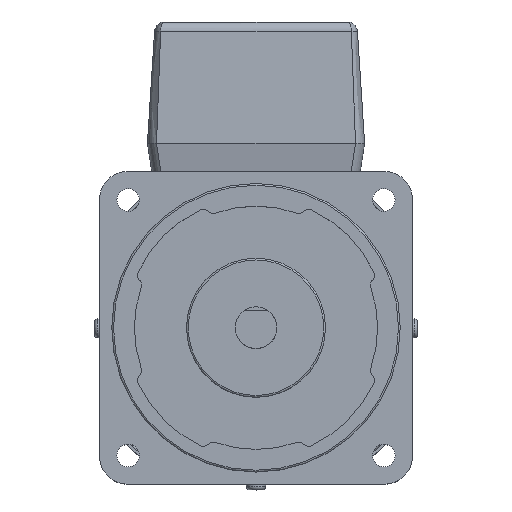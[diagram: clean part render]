
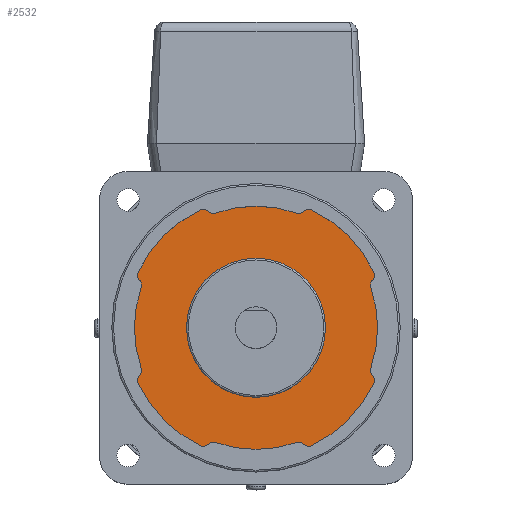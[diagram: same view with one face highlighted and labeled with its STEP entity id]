
A CAD part, top view. The second image highlights one B-rep face of the part: STEP entity #2532.
In plain terms, the highlighted planar face has unit normal (0, 0, 1).
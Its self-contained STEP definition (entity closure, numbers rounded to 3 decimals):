
#695=CARTESIAN_POINT('',(20.0,0.,116.0));
#696=VERTEX_POINT('',#695);
#697=CARTESIAN_POINT('',(0.,0.,116.0));
#698=DIRECTION('',(0.0,0.0,-1.0));
#699=DIRECTION('',(-1.0,0.0,0.0));
#700=AXIS2_PLACEMENT_3D('',#697,#698,#699);
#701=CIRCLE('',#700,20.0);
#702=EDGE_CURVE('',#696,#696,#701,.T.);
#725=CARTESIAN_POINT('',(-13.722,-33.501,116.0));
#726=VERTEX_POINT('',#725);
#742=CARTESIAN_POINT('',(-11.626,-33.013,116.0));
#743=VERTEX_POINT('',#742);
#750=CARTESIAN_POINT('',(-12.291,-34.899,116.0));
#751=DIRECTION('',(0.0,0.0,-1.0));
#752=DIRECTION('',(-0.408,0.913,0.0));
#753=AXIS2_PLACEMENT_3D('',#750,#751,#752);
#754=CIRCLE('',#753,2.0);
#755=EDGE_CURVE('',#743,#726,#754,.F.);
#775=CARTESIAN_POINT('',(11.626,-33.013,116.0));
#776=VERTEX_POINT('',#775);
#783=CARTESIAN_POINT('',(0.,0.,116.));
#784=DIRECTION('',(0.,0.,1.0));
#785=DIRECTION('',(-0.383,-0.924,0.));
#786=AXIS2_PLACEMENT_3D('',#783,#784,#785);
#787=CIRCLE('',#786,35.0);
#788=EDGE_CURVE('',#743,#776,#787,.T.);
#798=CARTESIAN_POINT('',(13.722,-33.501,116.0));
#799=VERTEX_POINT('',#798);
#808=CARTESIAN_POINT('',(12.291,-34.899,116.0));
#809=DIRECTION('',(0.0,0.0,-1.0));
#810=DIRECTION('',(0.408,0.913,0.0));
#811=AXIS2_PLACEMENT_3D('',#808,#809,#810);
#812=CIRCLE('',#811,2.0);
#813=EDGE_CURVE('',#799,#776,#812,.F.);
#840=CARTESIAN_POINT('',(16.006,-33.913,116.0));
#841=VERTEX_POINT('',#840);
#848=CARTESIAN_POINT('',(15.152,-32.104,116.0));
#849=DIRECTION('',(0.0,0.0,1.0));
#850=DIRECTION('',(0.715,0.699,0.0));
#851=AXIS2_PLACEMENT_3D('',#848,#849,#850);
#852=CIRCLE('',#851,2.);
#853=EDGE_CURVE('',#799,#841,#852,.T.);
#864=CARTESIAN_POINT('',(33.913,-16.006,116.0));
#865=VERTEX_POINT('',#864);
#874=CARTESIAN_POINT('',(0.,0.,116.));
#875=DIRECTION('',(0.,0.,1.0));
#876=DIRECTION('',(0.383,-0.924,0.));
#877=AXIS2_PLACEMENT_3D('',#874,#875,#876);
#878=CIRCLE('',#877,37.5);
#879=EDGE_CURVE('',#841,#865,#878,.T.);
#906=CARTESIAN_POINT('',(33.501,-13.722,116.0));
#907=VERTEX_POINT('',#906);
#914=CARTESIAN_POINT('',(32.104,-15.152,116.0));
#915=DIRECTION('',(0.0,0.0,1.0));
#916=DIRECTION('',(-0.904,0.427,0.0));
#917=AXIS2_PLACEMENT_3D('',#914,#915,#916);
#918=CIRCLE('',#917,2.);
#919=EDGE_CURVE('',#865,#907,#918,.T.);
#940=CARTESIAN_POINT('',(33.013,-11.626,116.0));
#941=VERTEX_POINT('',#940);
#948=CARTESIAN_POINT('',(34.899,-12.291,116.0));
#949=DIRECTION('',(0.0,0.0,-1.0));
#950=DIRECTION('',(-0.913,-0.408,0.0));
#951=AXIS2_PLACEMENT_3D('',#948,#949,#950);
#952=CIRCLE('',#951,2.0);
#953=EDGE_CURVE('',#941,#907,#952,.F.);
#963=CARTESIAN_POINT('',(33.013,11.626,116.0));
#964=VERTEX_POINT('',#963);
#973=CARTESIAN_POINT('',(0.,0.,116.));
#974=DIRECTION('',(0.,0.,1.0));
#975=DIRECTION('',(0.924,-0.383,0.));
#976=AXIS2_PLACEMENT_3D('',#973,#974,#975);
#977=CIRCLE('',#976,35.);
#978=EDGE_CURVE('',#941,#964,#977,.T.);
#996=CARTESIAN_POINT('',(33.501,13.722,116.0));
#997=VERTEX_POINT('',#996);
#1006=CARTESIAN_POINT('',(34.899,12.291,116.0));
#1007=DIRECTION('',(0.0,0.0,-1.0));
#1008=DIRECTION('',(-0.913,0.408,0.0));
#1009=AXIS2_PLACEMENT_3D('',#1006,#1007,#1008);
#1010=CIRCLE('',#1009,2.0);
#1011=EDGE_CURVE('',#997,#964,#1010,.F.);
#1038=CARTESIAN_POINT('',(33.913,16.006,116.0));
#1039=VERTEX_POINT('',#1038);
#1046=CARTESIAN_POINT('',(32.104,15.152,116.0));
#1047=DIRECTION('',(0.0,0.0,1.0));
#1048=DIRECTION('',(-0.699,0.715,0.0));
#1049=AXIS2_PLACEMENT_3D('',#1046,#1047,#1048);
#1050=CIRCLE('',#1049,2.);
#1051=EDGE_CURVE('',#997,#1039,#1050,.T.);
#1062=CARTESIAN_POINT('',(16.006,33.913,116.0));
#1063=VERTEX_POINT('',#1062);
#1072=CARTESIAN_POINT('',(0.,0.,116.));
#1073=DIRECTION('',(0.,0.,1.0));
#1074=DIRECTION('',(0.924,0.383,0.));
#1075=AXIS2_PLACEMENT_3D('',#1072,#1073,#1074);
#1076=CIRCLE('',#1075,37.5);
#1077=EDGE_CURVE('',#1039,#1063,#1076,.T.);
#1104=CARTESIAN_POINT('',(13.722,33.501,116.0));
#1105=VERTEX_POINT('',#1104);
#1112=CARTESIAN_POINT('',(15.152,32.104,116.0));
#1113=DIRECTION('',(0.0,0.0,1.0));
#1114=DIRECTION('',(-0.427,-0.904,0.0));
#1115=AXIS2_PLACEMENT_3D('',#1112,#1113,#1114);
#1116=CIRCLE('',#1115,2.);
#1117=EDGE_CURVE('',#1063,#1105,#1116,.T.);
#1138=CARTESIAN_POINT('',(11.626,33.013,116.0));
#1139=VERTEX_POINT('',#1138);
#1146=CARTESIAN_POINT('',(12.291,34.899,116.0));
#1147=DIRECTION('',(0.0,0.0,-1.0));
#1148=DIRECTION('',(0.408,-0.913,0.0));
#1149=AXIS2_PLACEMENT_3D('',#1146,#1147,#1148);
#1150=CIRCLE('',#1149,2.0);
#1151=EDGE_CURVE('',#1139,#1105,#1150,.F.);
#1161=CARTESIAN_POINT('',(-11.626,33.013,116.0));
#1162=VERTEX_POINT('',#1161);
#1171=CARTESIAN_POINT('',(0.,0.,116.));
#1172=DIRECTION('',(0.,0.,1.0));
#1173=DIRECTION('',(0.383,0.924,0.));
#1174=AXIS2_PLACEMENT_3D('',#1171,#1172,#1173);
#1175=CIRCLE('',#1174,35.0);
#1176=EDGE_CURVE('',#1139,#1162,#1175,.T.);
#1194=CARTESIAN_POINT('',(-13.722,33.501,116.0));
#1195=VERTEX_POINT('',#1194);
#1204=CARTESIAN_POINT('',(-12.291,34.899,116.0));
#1205=DIRECTION('',(0.0,0.0,-1.0));
#1206=DIRECTION('',(-0.408,-0.913,0.0));
#1207=AXIS2_PLACEMENT_3D('',#1204,#1205,#1206);
#1208=CIRCLE('',#1207,2.0);
#1209=EDGE_CURVE('',#1195,#1162,#1208,.F.);
#1236=CARTESIAN_POINT('',(-16.006,33.913,116.0));
#1237=VERTEX_POINT('',#1236);
#1244=CARTESIAN_POINT('',(-15.152,32.104,116.0));
#1245=DIRECTION('',(0.0,0.0,1.0));
#1246=DIRECTION('',(-0.715,-0.699,0.0));
#1247=AXIS2_PLACEMENT_3D('',#1244,#1245,#1246);
#1248=CIRCLE('',#1247,2.);
#1249=EDGE_CURVE('',#1195,#1237,#1248,.T.);
#1270=CARTESIAN_POINT('',(-33.913,16.006,116.0));
#1271=VERTEX_POINT('',#1270);
#1278=CARTESIAN_POINT('',(0.,0.,116.));
#1279=DIRECTION('',(0.,0.,1.0));
#1280=DIRECTION('',(-0.383,0.924,0.));
#1281=AXIS2_PLACEMENT_3D('',#1278,#1279,#1280);
#1282=CIRCLE('',#1281,37.5);
#1283=EDGE_CURVE('',#1237,#1271,#1282,.T.);
#1302=CARTESIAN_POINT('',(-33.501,13.722,116.0));
#1303=VERTEX_POINT('',#1302);
#1310=CARTESIAN_POINT('',(-32.104,15.152,116.0));
#1311=DIRECTION('',(0.0,0.0,1.0));
#1312=DIRECTION('',(0.904,-0.427,0.0));
#1313=AXIS2_PLACEMENT_3D('',#1310,#1311,#1312);
#1314=CIRCLE('',#1313,2.);
#1315=EDGE_CURVE('',#1271,#1303,#1314,.T.);
#1336=CARTESIAN_POINT('',(-33.013,11.626,116.0));
#1337=VERTEX_POINT('',#1336);
#1344=CARTESIAN_POINT('',(-34.899,12.291,116.0));
#1345=DIRECTION('',(0.0,0.0,-1.0));
#1346=DIRECTION('',(0.913,0.408,0.0));
#1347=AXIS2_PLACEMENT_3D('',#1344,#1345,#1346);
#1348=CIRCLE('',#1347,2.0);
#1349=EDGE_CURVE('',#1337,#1303,#1348,.F.);
#1359=CARTESIAN_POINT('',(-33.013,-11.626,116.0));
#1360=VERTEX_POINT('',#1359);
#1369=CARTESIAN_POINT('',(0.,0.,116.));
#1370=DIRECTION('',(0.,0.,1.0));
#1371=DIRECTION('',(-0.924,0.383,0.));
#1372=AXIS2_PLACEMENT_3D('',#1369,#1370,#1371);
#1373=CIRCLE('',#1372,35.0);
#1374=EDGE_CURVE('',#1337,#1360,#1373,.T.);
#1392=CARTESIAN_POINT('',(-33.501,-13.722,116.0));
#1393=VERTEX_POINT('',#1392);
#1402=CARTESIAN_POINT('',(-34.899,-12.291,116.0));
#1403=DIRECTION('',(0.0,0.0,-1.0));
#1404=DIRECTION('',(0.913,-0.408,0.0));
#1405=AXIS2_PLACEMENT_3D('',#1402,#1403,#1404);
#1406=CIRCLE('',#1405,2.0);
#1407=EDGE_CURVE('',#1393,#1360,#1406,.F.);
#1434=CARTESIAN_POINT('',(-33.913,-16.006,116.0));
#1435=VERTEX_POINT('',#1434);
#1442=CARTESIAN_POINT('',(-32.104,-15.152,116.0));
#1443=DIRECTION('',(0.0,0.0,1.0));
#1444=DIRECTION('',(0.699,-0.715,0.0));
#1445=AXIS2_PLACEMENT_3D('',#1442,#1443,#1444);
#1446=CIRCLE('',#1445,2.);
#1447=EDGE_CURVE('',#1393,#1435,#1446,.T.);
#1458=CARTESIAN_POINT('',(-16.006,-33.913,116.0));
#1459=VERTEX_POINT('',#1458);
#1468=CARTESIAN_POINT('',(0.,0.,116.));
#1469=DIRECTION('',(0.,0.,1.0));
#1470=DIRECTION('',(-0.924,-0.383,0.));
#1471=AXIS2_PLACEMENT_3D('',#1468,#1469,#1470);
#1472=CIRCLE('',#1471,37.5);
#1473=EDGE_CURVE('',#1435,#1459,#1472,.T.);
#1499=CARTESIAN_POINT('',(-15.152,-32.104,116.0));
#1500=DIRECTION('',(0.0,0.0,1.0));
#1501=DIRECTION('',(0.427,0.904,0.0));
#1502=AXIS2_PLACEMENT_3D('',#1499,#1500,#1501);
#1503=CIRCLE('',#1502,2.);
#1504=EDGE_CURVE('',#1459,#726,#1503,.T.);
#2498=CARTESIAN_POINT('',(0.,0.,116.0));
#2499=DIRECTION('',(0.0,0.0,1.0));
#2500=DIRECTION('',(1.0,0.0,0.0));
#2501=AXIS2_PLACEMENT_3D('',#2498,#2499,#2500);
#2502=PLANE('',#2501);
#2503=ORIENTED_EDGE('',*,*,#1504,.T.);
#2504=ORIENTED_EDGE('',*,*,#755,.F.);
#2505=ORIENTED_EDGE('',*,*,#788,.T.);
#2506=ORIENTED_EDGE('',*,*,#813,.F.);
#2507=ORIENTED_EDGE('',*,*,#853,.T.);
#2508=ORIENTED_EDGE('',*,*,#879,.T.);
#2509=ORIENTED_EDGE('',*,*,#919,.T.);
#2510=ORIENTED_EDGE('',*,*,#953,.F.);
#2511=ORIENTED_EDGE('',*,*,#978,.T.);
#2512=ORIENTED_EDGE('',*,*,#1011,.F.);
#2513=ORIENTED_EDGE('',*,*,#1051,.T.);
#2514=ORIENTED_EDGE('',*,*,#1077,.T.);
#2515=ORIENTED_EDGE('',*,*,#1117,.T.);
#2516=ORIENTED_EDGE('',*,*,#1151,.F.);
#2517=ORIENTED_EDGE('',*,*,#1176,.T.);
#2518=ORIENTED_EDGE('',*,*,#1209,.F.);
#2519=ORIENTED_EDGE('',*,*,#1249,.T.);
#2520=ORIENTED_EDGE('',*,*,#1283,.T.);
#2521=ORIENTED_EDGE('',*,*,#1315,.T.);
#2522=ORIENTED_EDGE('',*,*,#1349,.F.);
#2523=ORIENTED_EDGE('',*,*,#1374,.T.);
#2524=ORIENTED_EDGE('',*,*,#1407,.F.);
#2525=ORIENTED_EDGE('',*,*,#1447,.T.);
#2526=ORIENTED_EDGE('',*,*,#1473,.T.);
#2527=EDGE_LOOP('',(#2503,#2504,#2505,#2506,#2507,#2508,#2509,#2510,#2511,#2512,#2513,#2514,#2515,#2516,#2517,#2518,#2519,#2520,#2521,#2522,#2523,#2524,#2525,#2526));
#2528=FACE_OUTER_BOUND('',#2527,.T.);
#2529=ORIENTED_EDGE('',*,*,#702,.T.);
#2530=EDGE_LOOP('',(#2529));
#2531=FACE_BOUND('',#2530,.T.);
#2532=ADVANCED_FACE('',(#2528,#2531),#2502,.T.);
